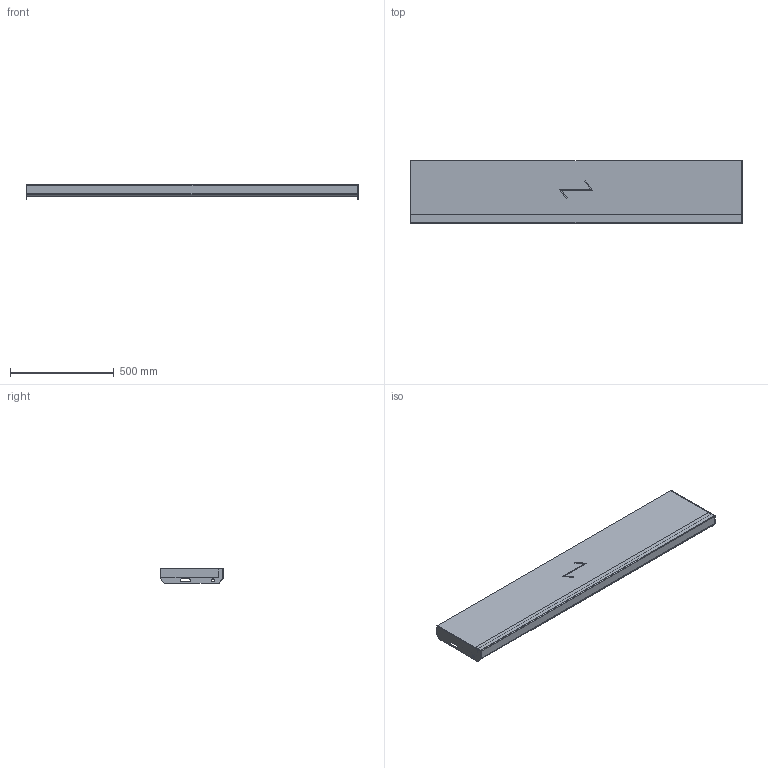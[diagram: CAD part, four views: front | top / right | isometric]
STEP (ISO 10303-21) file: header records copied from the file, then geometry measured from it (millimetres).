
FILE_DESCRIPTION (( 'STEP AP203' ), '1' );
FILE_NAME ('StegTH6-S-nya_steget-1600x300.STEP', '2020-03-04T07:47:18', ( '' ), ( '' ), 'SwSTEP 2.0', 'SolidWorks 2019', '' );
FILE_SCHEMA (( 'CONFIG_CONTROL_DESIGN' ));
Length unit declared in the file: millimetre
Products named in the file (5): SW0000039013; SW0000039607; StegTH6-S-nya_steget-1600x300; SW0000038703; SW0000039259
Assembly tree (5 placements, depth 3):
  StegTH6-S-nya_steget-1600x300
    SW0000039607
      SW0000039013
      SW0000039259
      SW0000038703  x2
Bounding box: 1600 x 300 x 72 mm (x, y, z)
Volume: 18092895.1 mm3; surface area: 1436743.5 mm2
Topology: 4 solids, 4 shells, 67 faces, 158 edges, 100 vertices
Faces by surface type: plane 51, cylinder 16
Entity records: 2002 total; most frequent: DIRECTION 261, CARTESIAN_POINT 254, ORIENTED_EDGE 238, EDGE_CURVE 119, VECTOR 99, LINE 99, AXIS2_PLACEMENT_3D 81, VERTEX_POINT 74
